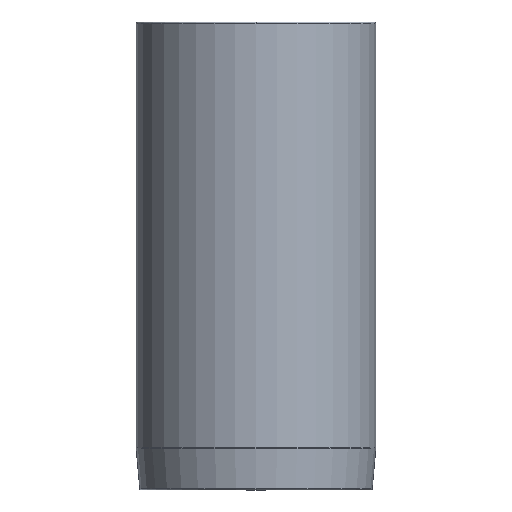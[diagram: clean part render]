
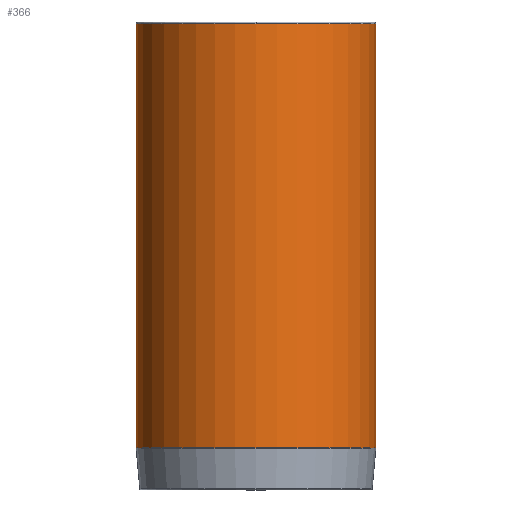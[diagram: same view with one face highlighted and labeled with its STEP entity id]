
A CAD part, front view. The second image highlights one B-rep face of the part: STEP entity #366.
In plain terms, the highlighted cylindrical face has radius 37.125 mm (diameter 74.25 mm), a partial arc.
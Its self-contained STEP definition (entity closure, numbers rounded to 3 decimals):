
#271=CARTESIAN_POINT('',(0.0,-37.125,72.5));
#272=VERTEX_POINT('',#271);
#298=CARTESIAN_POINT('',(-37.125,0.,72.5));
#299=VERTEX_POINT('',#298);
#307=CARTESIAN_POINT('',(0.0,0.,72.5));
#308=DIRECTION('',(0.0,0.0,1.0));
#309=DIRECTION('',(1.0,0.0,0.0));
#310=AXIS2_PLACEMENT_3D('',#307,#308,#309);
#311=CIRCLE('',#310,37.125);
#312=EDGE_CURVE('',#299,#272,#311,.T.);
#317=CARTESIAN_POINT('',(0.0,0.,6.772));
#318=DIRECTION('',(0.0,0.,1.0));
#319=DIRECTION('',(1.0,0.0,0.0));
#320=AXIS2_PLACEMENT_3D('',#317,#318,#319);
#321=CYLINDRICAL_SURFACE('',#320,37.125);
#322=CARTESIAN_POINT('',(37.125,0.,72.5));
#323=VERTEX_POINT('',#322);
#324=CARTESIAN_POINT('',(37.125,0.,-58.956));
#325=VERTEX_POINT('',#324);
#326=CARTESIAN_POINT('',(37.125,0.,72.5));
#327=DIRECTION('',(0.0,0.0,-1.0));
#328=VECTOR('',#327,131.456);
#329=LINE('',#326,#328);
#330=EDGE_CURVE('',#323,#325,#329,.T.);
#331=ORIENTED_EDGE('',*,*,#330,.F.);
#332=CARTESIAN_POINT('',(0.0,0.,72.5));
#333=DIRECTION('',(0.0,0.0,1.0));
#334=DIRECTION('',(1.0,0.0,0.0));
#335=AXIS2_PLACEMENT_3D('',#332,#333,#334);
#336=CIRCLE('',#335,37.125);
#337=EDGE_CURVE('',#272,#323,#336,.T.);
#338=ORIENTED_EDGE('',*,*,#337,.F.);
#339=ORIENTED_EDGE('',*,*,#312,.F.);
#340=CARTESIAN_POINT('',(-37.125,0.,-58.956));
#341=VERTEX_POINT('',#340);
#342=CARTESIAN_POINT('',(-37.125,0.,72.5));
#343=DIRECTION('',(0.0,0.0,-1.0));
#344=VECTOR('',#343,131.456);
#345=LINE('',#342,#344);
#346=EDGE_CURVE('',#299,#341,#345,.T.);
#347=ORIENTED_EDGE('',*,*,#346,.T.);
#348=CARTESIAN_POINT('',(0.0,-37.125,-58.956));
#349=VERTEX_POINT('',#348);
#350=CARTESIAN_POINT('',(0.0,0.,-58.956));
#351=DIRECTION('',(0.0,0.0,1.0));
#352=DIRECTION('',(1.0,0.0,0.0));
#353=AXIS2_PLACEMENT_3D('',#350,#351,#352);
#354=CIRCLE('',#353,37.125);
#355=EDGE_CURVE('',#341,#349,#354,.T.);
#356=ORIENTED_EDGE('',*,*,#355,.T.);
#357=CARTESIAN_POINT('',(0.0,0.,-58.956));
#358=DIRECTION('',(0.0,0.0,1.0));
#359=DIRECTION('',(1.0,0.0,0.0));
#360=AXIS2_PLACEMENT_3D('',#357,#358,#359);
#361=CIRCLE('',#360,37.125);
#362=EDGE_CURVE('',#349,#325,#361,.T.);
#363=ORIENTED_EDGE('',*,*,#362,.T.);
#364=EDGE_LOOP('',(#331,#338,#339,#347,#356,#363));
#365=FACE_OUTER_BOUND('',#364,.T.);
#366=ADVANCED_FACE('',(#365),#321,.T.);
